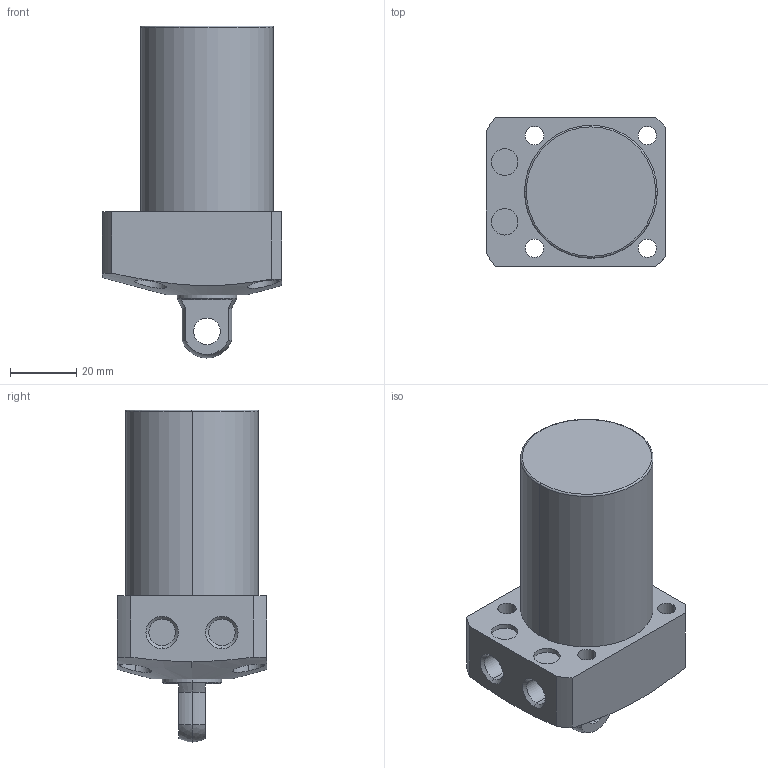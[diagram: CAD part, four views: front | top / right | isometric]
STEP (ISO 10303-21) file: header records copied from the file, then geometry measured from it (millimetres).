
FILE_DESCRIPTION (( 'STEP AP203' ), '1' );
FILE_NAME ('CLL-0400-CP-45.STEP', '2017-05-09T06:44:14', ( '' ), ( '' ), 'SwSTEP 2.0', 'SolidWorks 2015', '' );
FILE_SCHEMA (( 'CONFIG_CONTROL_DESIGN' ));
Length unit declared in the file: millimetre
Products named in the file (1): CLL-0400-CP-45
Bounding box: 54 x 45 x 100 mm (x, y, z)
Volume: 122415.1 mm3; surface area: 18966.1 mm2
Topology: 1 solids, 1 shells, 68 faces, 159 edges, 103 vertices
Faces by surface type: cylinder 35, plane 21, cone 8, sphere 2, torus 2
Entity records: 2379 total; most frequent: CARTESIAN_POINT 682, DIRECTION 357, ORIENTED_EDGE 318, EDGE_CURVE 159, AXIS2_PLACEMENT_3D 149, VERTEX_POINT 103, EDGE_LOOP 88, CIRCLE 80
